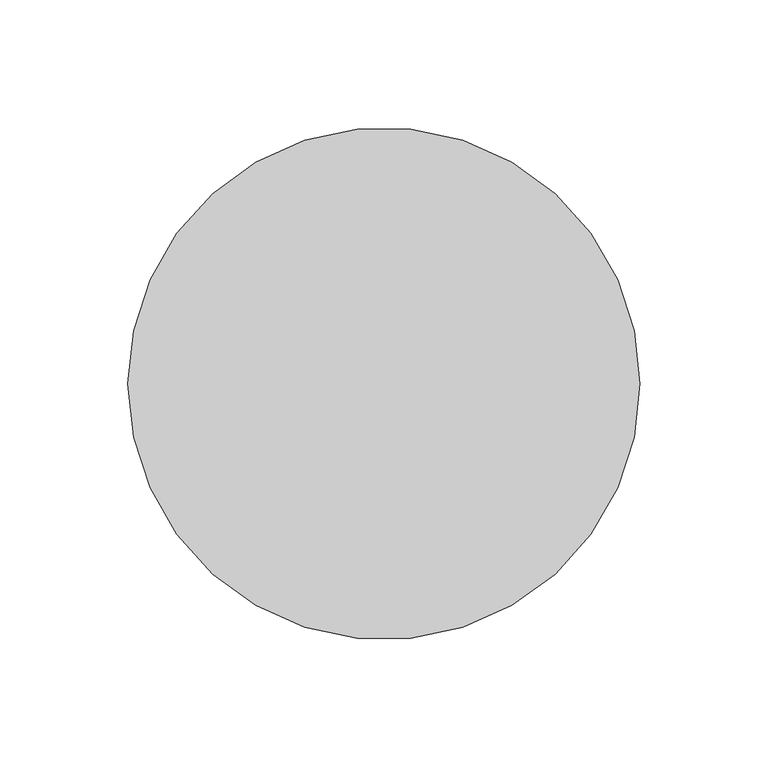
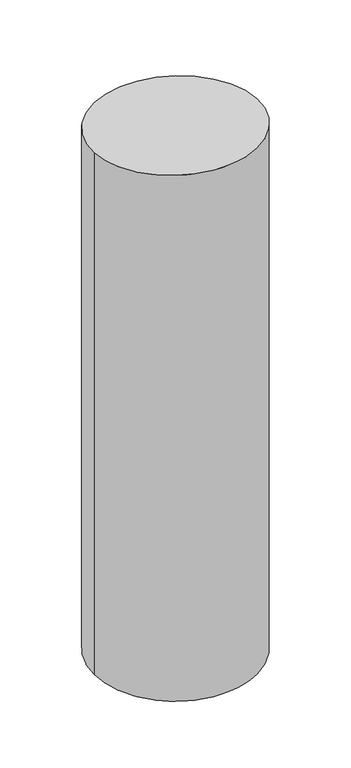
"""IFC4 building model written with IfcOpenShell, lengths in millimetres: member geometry, 矩形竖梃 : 圆瓦."""

from ifc_helpers import new_model, si_unit, frame, origin, origin_with_axes, place, context, project, spatial, circle_curve, ellipse_curve, source, transform, mapped, element, save
from ifc_brep_helpers import plane_surface, cylinder_surface, advanced_brep


def member_5ab32efa(model_context):
    return source(origin(), model_context, "Body", "AdvancedBrep", [
        advanced_brep(
        [(100.0, 0.0, -676.718601), (-100.0, 0.0, -676.718601), (-100.0, 0.0, 0.0), (100.0, 0.0, 0.0)],
        [
            (0, 1, circle_curve(frame((0.0, 0.0, -676.718601), z_axis=(0.0, 0.0, -1.0), x_axis=(1.0, 0.0, 0.0)), 100.0)),
            (1, 0, circle_curve(frame((0.0, 0.0, -676.718601), z_axis=(0.0, 0.0, -1.0), x_axis=(1.0, 0.0, 0.0)), 100.0)),
            (2, 3, ellipse_curve(frame((0.0, 0.0, 0.0), z_axis=(0.0, -0.06281746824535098, -0.9980250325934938), x_axis=(0.0, -0.998025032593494, 0.06281746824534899)), 100.1978876, 100.0)),
            (3, 0),
            (1, 2),
            (3, 2, ellipse_curve(frame((0.0, 0.0, 0.0), z_axis=(0.0, -0.06281746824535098, -0.9980250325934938), x_axis=(0.0, -0.998025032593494, 0.06281746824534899)), 100.1978876, 100.0)),
        ],
        [
            plane_surface(frame((0.0, -100.0, -676.718601), z_axis=(0.0, 0.0, -1.0), x_axis=(-1.0, 0.0, 0.0))),
            cylinder_surface(origin_with_axes(), 100.0),
            plane_surface(frame((-304.8, 0.0, 0.0), z_axis=(0.0, 0.06281746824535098, 0.9980250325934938), x_axis=(0.0, 0.9980250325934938, -0.06281746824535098))),
        ],
        [
            (0, [[1, 2]]),
            (1, [[3, 4, -2, 5]]),
            (1, [[6, -5, -1, -4]]),
            (2, [[-3, -6]]),
        ],
    ),
    ])


if __name__ == "__main__":
    model = new_model("IFC4")
    model_context = context("Model", 3, world=origin())
    ifc_project = project(units=[si_unit("LENGTHUNIT", "METRE", prefix="MILLI")], contexts=[model_context])
    site = spatial("IfcSite", under=ifc_project)
    building = spatial("IfcBuilding", under=site)
    placement = place(None, origin())
    member_shape = member_5ab32efa(model_context)
    element("IfcMember", 1, ObjectType="矩形竖梃 : 圆瓦", at=placement, inside=building, context=model_context, shape_type="MappedRepresentation", body=[
        mapped(member_shape, transform((0.0, 0.0, 0.0), x_axis=(1.0, 0.0, 0.0), y_axis=(0.0, 1.0, 0.0), z_axis=(0.0, 0.0, 1.0))),
    ])
    save(model, "model.ifc")
